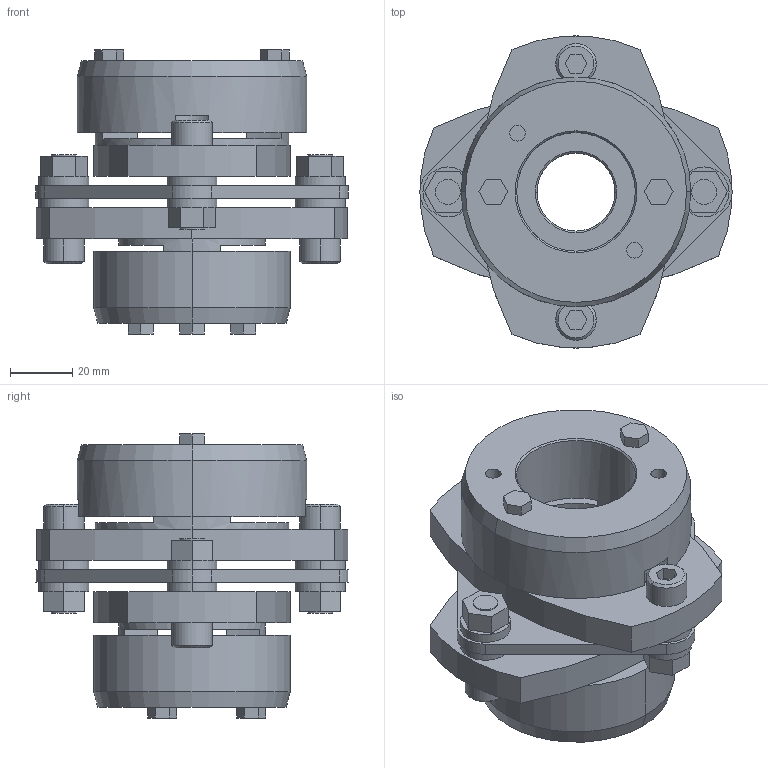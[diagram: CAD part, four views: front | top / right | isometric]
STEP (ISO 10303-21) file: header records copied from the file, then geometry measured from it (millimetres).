
FILE_DESCRIPTION((''),'2;1');
FILE_NAME('LCS-100T7-25×38.stp','2011-09-08T17:17:20',(''),(''),'AutoCAD STEP 2000i','AutoCAD 2000i',', , ');
FILE_SCHEMA(('CONFIG_CONTROL_DESIGN'));
Length unit declared in the file: millimetre
Products named in the file (10): LCS-100T7-25×38; 忣兜1; LC100T7-T038; LC100T7-T035; LC100T7-T030; LC100T7-T025-1; LC100T7-T025; LC100T7-T022-1; LC100T7-T022; LCS100-ITA
Assembly tree (9 placements, depth 2):
  LCS-100T7-25×38
    忣兜1
    LC100T7-T038
    LC100T7-T035
    LC100T7-T030
    LC100T7-T025-1
    LC100T7-T025
    LC100T7-T022-1
    LC100T7-T022
    LCS100-ITA
Bounding box: 100 x 99.93 x 91 mm (x, y, z)
Volume: 259097.7 mm3; surface area: 64342.6 mm2
Topology: 1 solids, 1 shells, 229 faces, 562 edges, 368 vertices
Faces by surface type: plane 127, cylinder 82, cone 20
Entity records: 7037 total; most frequent: DIRECTION 1244, CARTESIAN_POINT 1169, ORIENTED_EDGE 1124, EDGE_CURVE 562, AXIS2_PLACEMENT_3D 443, VERTEX_POINT 368, VECTOR 358, LINE 358
